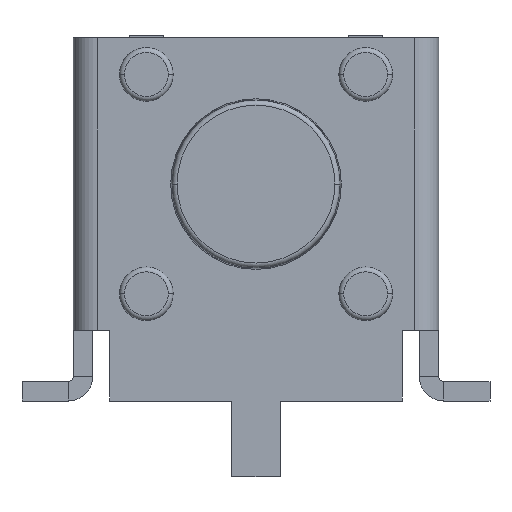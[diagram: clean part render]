
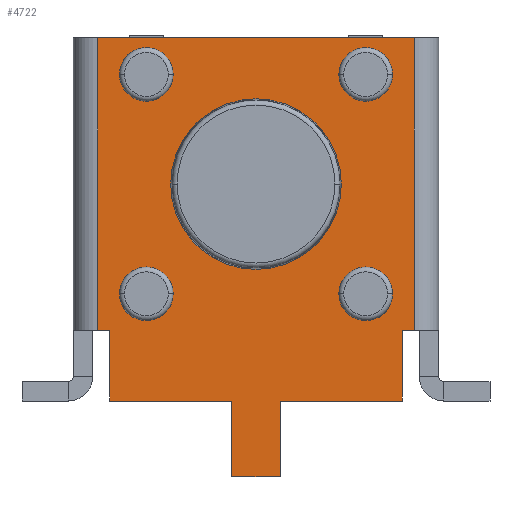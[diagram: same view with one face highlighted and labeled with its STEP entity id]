
A CAD part, front view. The second image highlights one B-rep face of the part: STEP entity #4722.
In plain terms, the highlighted planar face has unit normal (0, -1, 0).
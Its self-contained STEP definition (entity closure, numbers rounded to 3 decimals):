
#3899=CARTESIAN_POINT('',(0.,-0.4,0.));
#3900=DIRECTION('',(0.,-1.,0.));
#3901=DIRECTION('',(1.,0.,0.));
#3902=AXIS2_PLACEMENT_3D('',#3899,#3900,#3901);
#3904=CARTESIAN_POINT('',(0.,-0.4,0.));
#3905=DIRECTION('',(0.,-1.,0.));
#3906=DIRECTION('',(-1.,0.,0.));
#3907=AXIS2_PLACEMENT_3D('',#3904,#3905,#3906);
#3909=CARTESIAN_POINT('',(-2.25,-0.4,-2.25));
#3910=DIRECTION('',(0.,-1.,0.));
#3911=DIRECTION('',(1.,0.,0.));
#3912=AXIS2_PLACEMENT_3D('',#3909,#3910,#3911);
#3914=CARTESIAN_POINT('',(-2.25,-0.4,-2.25));
#3915=DIRECTION('',(0.,-1.,0.));
#3916=DIRECTION('',(-1.,0.,0.));
#3917=AXIS2_PLACEMENT_3D('',#3914,#3915,#3916);
#3919=CARTESIAN_POINT('',(2.25,-0.4,-2.25));
#3920=DIRECTION('',(0.,-1.,0.));
#3921=DIRECTION('',(1.,0.,0.));
#3922=AXIS2_PLACEMENT_3D('',#3919,#3920,#3921);
#3924=CARTESIAN_POINT('',(2.25,-0.4,-2.25));
#3925=DIRECTION('',(0.,-1.,0.));
#3926=DIRECTION('',(-1.,0.,0.));
#3927=AXIS2_PLACEMENT_3D('',#3924,#3925,#3926);
#3929=CARTESIAN_POINT('',(-2.25,-0.4,2.25));
#3930=DIRECTION('',(0.,-1.,0.));
#3931=DIRECTION('',(1.,0.,0.));
#3932=AXIS2_PLACEMENT_3D('',#3929,#3930,#3931);
#3934=CARTESIAN_POINT('',(-2.25,-0.4,2.25));
#3935=DIRECTION('',(0.,-1.,0.));
#3936=DIRECTION('',(-1.,0.,0.));
#3937=AXIS2_PLACEMENT_3D('',#3934,#3935,#3936);
#3939=CARTESIAN_POINT('',(2.25,-0.4,2.25));
#3940=DIRECTION('',(0.,-1.,0.));
#3941=DIRECTION('',(1.,0.,0.));
#3942=AXIS2_PLACEMENT_3D('',#3939,#3940,#3941);
#3944=CARTESIAN_POINT('',(2.25,-0.4,2.25));
#3945=DIRECTION('',(0.,-1.,0.));
#3946=DIRECTION('',(-1.,0.,0.));
#3947=AXIS2_PLACEMENT_3D('',#3944,#3945,#3946);
#3949=DIRECTION('',(-1.,0.,0.));
#3950=VECTOR('',#3949,0.25);
#3951=CARTESIAN_POINT('',(3.25,-0.4,-3.));
#3952=LINE('',#3951,#3950);
#3953=DIRECTION('',(0.,0.,1.));
#3954=VECTOR('',#3953,1.45);
#3955=CARTESIAN_POINT('',(3.,-0.4,-4.45));
#3956=LINE('',#3955,#3954);
#3957=DIRECTION('',(1.,0.,0.));
#3958=VECTOR('',#3957,2.5);
#3959=CARTESIAN_POINT('',(0.5,-0.4,-4.45));
#3960=LINE('',#3959,#3958);
#3961=DIRECTION('',(0.,0.,1.));
#3962=VECTOR('',#3961,1.55);
#3963=CARTESIAN_POINT('',(0.5,-0.4,-6.));
#3964=LINE('',#3963,#3962);
#3965=DIRECTION('',(1.,0.,0.));
#3966=VECTOR('',#3965,1.);
#3967=CARTESIAN_POINT('',(-0.5,-0.4,-6.));
#3968=LINE('',#3967,#3966);
#3969=DIRECTION('',(0.,0.,-1.));
#3970=VECTOR('',#3969,1.55);
#3971=CARTESIAN_POINT('',(-0.5,-0.4,-4.45));
#3972=LINE('',#3971,#3970);
#3973=DIRECTION('',(1.,0.,0.));
#3974=VECTOR('',#3973,2.5);
#3975=CARTESIAN_POINT('',(-3.,-0.4,-4.45));
#3976=LINE('',#3975,#3974);
#3977=DIRECTION('',(0.,0.,-1.));
#3978=VECTOR('',#3977,1.45);
#3979=CARTESIAN_POINT('',(-3.,-0.4,-3.));
#3980=LINE('',#3979,#3978);
#3981=DIRECTION('',(-1.,0.,0.));
#3982=VECTOR('',#3981,0.25);
#3983=CARTESIAN_POINT('',(-3.,-0.4,-3.));
#3984=LINE('',#3983,#3982);
#3985=DIRECTION('',(1.,0.,0.));
#3986=VECTOR('',#3985,6.5);
#3987=CARTESIAN_POINT('',(-3.25,-0.4,3.));
#3988=LINE('',#3987,#3986);
#4070=DIRECTION('',(0.,0.,-1.));
#4071=VECTOR('',#4070,6.);
#4072=CARTESIAN_POINT('',(3.25,-0.4,3.));
#4073=LINE('',#4072,#4071);
#4228=DIRECTION('',(0.,0.,1.));
#4229=VECTOR('',#4228,6.);
#4230=CARTESIAN_POINT('',(-3.25,-0.4,-3.));
#4231=LINE('',#4230,#4229);
#4425=CARTESIAN_POINT('',(1.75,-0.4,0.));
#4426=CARTESIAN_POINT('',(-1.75,-0.4,0.));
#4427=VERTEX_POINT('',#4425);
#4428=VERTEX_POINT('',#4426);
#4429=CARTESIAN_POINT('',(-2.,-0.4,-2.25));
#4430=CARTESIAN_POINT('',(-2.5,-0.4,-2.25));
#4431=VERTEX_POINT('',#4429);
#4432=VERTEX_POINT('',#4430);
#4433=CARTESIAN_POINT('',(2.5,-0.4,-2.25));
#4434=CARTESIAN_POINT('',(2.,-0.4,-2.25));
#4435=VERTEX_POINT('',#4433);
#4436=VERTEX_POINT('',#4434);
#4437=CARTESIAN_POINT('',(-2.,-0.4,2.25));
#4438=CARTESIAN_POINT('',(-2.5,-0.4,2.25));
#4439=VERTEX_POINT('',#4437);
#4440=VERTEX_POINT('',#4438);
#4441=CARTESIAN_POINT('',(2.5,-0.4,2.25));
#4442=CARTESIAN_POINT('',(2.,-0.4,2.25));
#4443=VERTEX_POINT('',#4441);
#4444=VERTEX_POINT('',#4442);
#4445=CARTESIAN_POINT('',(-3.,-0.4,-3.));
#4446=CARTESIAN_POINT('',(-3.,-0.4,-4.45));
#4447=VERTEX_POINT('',#4445);
#4448=VERTEX_POINT('',#4446);
#4449=CARTESIAN_POINT('',(-0.5,-0.4,-4.45));
#4450=VERTEX_POINT('',#4449);
#4451=CARTESIAN_POINT('',(3.,-0.4,-4.45));
#4452=CARTESIAN_POINT('',(3.,-0.4,-3.));
#4453=VERTEX_POINT('',#4451);
#4454=VERTEX_POINT('',#4452);
#4517=CARTESIAN_POINT('',(-3.25,-0.4,3.));
#4518=VERTEX_POINT('',#4517);
#4519=CARTESIAN_POINT('',(-3.25,-0.4,-3.));
#4520=VERTEX_POINT('',#4519);
#4527=CARTESIAN_POINT('',(3.25,-0.4,3.));
#4528=VERTEX_POINT('',#4527);
#4531=CARTESIAN_POINT('',(3.25,-0.4,-3.));
#4532=VERTEX_POINT('',#4531);
#4561=CARTESIAN_POINT('',(-0.5,-0.4,-6.));
#4562=VERTEX_POINT('',#4561);
#4563=CARTESIAN_POINT('',(0.5,-0.4,-6.));
#4564=VERTEX_POINT('',#4563);
#4565=CARTESIAN_POINT('',(0.5,-0.4,-4.45));
#4566=VERTEX_POINT('',#4565);
#4663=CARTESIAN_POINT('',(0.,-0.4,0.));
#4664=DIRECTION('',(0.,1.,0.));
#4665=DIRECTION('',(1.,0.,0.));
#4666=AXIS2_PLACEMENT_3D('',#4663,#4664,#4665);
#4667=PLANE('',#4666);
#4669=ORIENTED_EDGE('',*,*,#4668,.T.);
#4671=ORIENTED_EDGE('',*,*,#4670,.F.);
#4673=ORIENTED_EDGE('',*,*,#4672,.F.);
#4675=ORIENTED_EDGE('',*,*,#4674,.F.);
#4677=ORIENTED_EDGE('',*,*,#4676,.F.);
#4679=ORIENTED_EDGE('',*,*,#4678,.F.);
#4681=ORIENTED_EDGE('',*,*,#4680,.F.);
#4683=ORIENTED_EDGE('',*,*,#4682,.F.);
#4685=ORIENTED_EDGE('',*,*,#4684,.T.);
#4687=ORIENTED_EDGE('',*,*,#4686,.T.);
#4689=ORIENTED_EDGE('',*,*,#4688,.T.);
#4691=ORIENTED_EDGE('',*,*,#4690,.T.);
#4692=EDGE_LOOP('',(#4669,#4671,#4673,#4675,#4677,#4679,#4681,#4683,#4685,#4687,
#4689,#4691));
#4693=FACE_OUTER_BOUND('',#4692,.F.);
#4695=ORIENTED_EDGE('',*,*,#4694,.T.);
#4697=ORIENTED_EDGE('',*,*,#4696,.T.);
#4698=EDGE_LOOP('',(#4695,#4697));
#4699=FACE_BOUND('',#4698,.F.);
#4701=ORIENTED_EDGE('',*,*,#4700,.T.);
#4703=ORIENTED_EDGE('',*,*,#4702,.T.);
#4704=EDGE_LOOP('',(#4701,#4703));
#4705=FACE_BOUND('',#4704,.F.);
#4707=ORIENTED_EDGE('',*,*,#4706,.T.);
#4709=ORIENTED_EDGE('',*,*,#4708,.T.);
#4710=EDGE_LOOP('',(#4707,#4709));
#4711=FACE_BOUND('',#4710,.F.);
#4713=ORIENTED_EDGE('',*,*,#4712,.T.);
#4715=ORIENTED_EDGE('',*,*,#4714,.T.);
#4716=EDGE_LOOP('',(#4713,#4715));
#4717=FACE_BOUND('',#4716,.F.);
#4718=ORIENTED_EDGE('',*,*,#4643,.T.);
#4719=ORIENTED_EDGE('',*,*,#4657,.T.);
#4720=EDGE_LOOP('',(#4718,#4719));
#4721=FACE_BOUND('',#4720,.F.);
#3903=CIRCLE('',#3902,1.75);
#3908=CIRCLE('',#3907,1.75);
#3913=CIRCLE('',#3912,0.25);
#3918=CIRCLE('',#3917,0.25);
#3923=CIRCLE('',#3922,0.25);
#3928=CIRCLE('',#3927,0.25);
#3933=CIRCLE('',#3932,0.25);
#3938=CIRCLE('',#3937,0.25);
#3943=CIRCLE('',#3942,0.25);
#3948=CIRCLE('',#3947,0.25);
#4643=EDGE_CURVE('',#4427,#4428,#3903,.T.);
#4657=EDGE_CURVE('',#4428,#4427,#3908,.T.);
#4668=EDGE_CURVE('',#4532,#4454,#3952,.T.);
#4670=EDGE_CURVE('',#4453,#4454,#3956,.T.);
#4672=EDGE_CURVE('',#4566,#4453,#3960,.T.);
#4674=EDGE_CURVE('',#4564,#4566,#3964,.T.);
#4676=EDGE_CURVE('',#4562,#4564,#3968,.T.);
#4678=EDGE_CURVE('',#4450,#4562,#3972,.T.);
#4680=EDGE_CURVE('',#4448,#4450,#3976,.T.);
#4682=EDGE_CURVE('',#4447,#4448,#3980,.T.);
#4684=EDGE_CURVE('',#4447,#4520,#3984,.T.);
#4686=EDGE_CURVE('',#4520,#4518,#4231,.T.);
#4688=EDGE_CURVE('',#4518,#4528,#3988,.T.);
#4690=EDGE_CURVE('',#4528,#4532,#4073,.T.);
#4694=EDGE_CURVE('',#4431,#4432,#3913,.T.);
#4696=EDGE_CURVE('',#4432,#4431,#3918,.T.);
#4700=EDGE_CURVE('',#4435,#4436,#3923,.T.);
#4702=EDGE_CURVE('',#4436,#4435,#3928,.T.);
#4706=EDGE_CURVE('',#4439,#4440,#3933,.T.);
#4708=EDGE_CURVE('',#4440,#4439,#3938,.T.);
#4712=EDGE_CURVE('',#4443,#4444,#3943,.T.);
#4714=EDGE_CURVE('',#4444,#4443,#3948,.T.);
#4722=ADVANCED_FACE('',(#4693,#4699,#4705,#4711,#4717,#4721),#4667,.F.);
